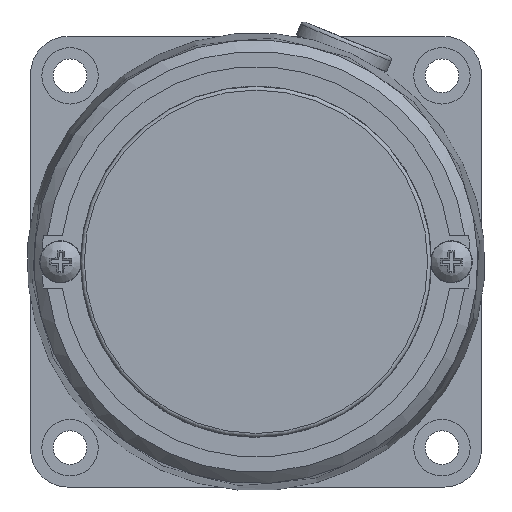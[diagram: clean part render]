
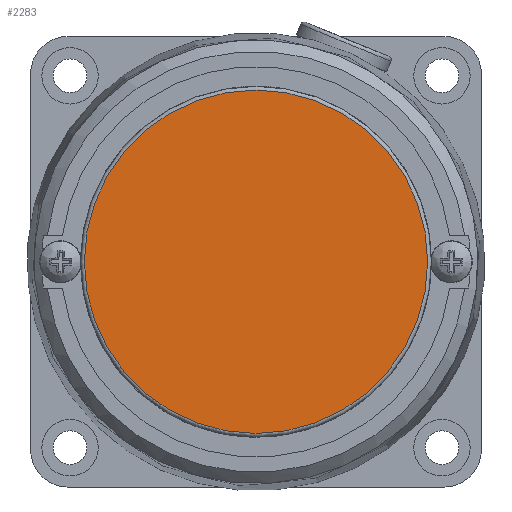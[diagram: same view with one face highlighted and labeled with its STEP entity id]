
A CAD part, left-side view. The second image highlights one B-rep face of the part: STEP entity #2283.
In plain terms, the highlighted planar face has unit normal (-1, 0, 0).
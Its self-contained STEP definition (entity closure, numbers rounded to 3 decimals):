
#2267=CARTESIAN_POINT('',(-48.,0.,19.175));
#2268=DIRECTION('',(-1.0,0.0,0.0));
#2269=DIRECTION('',(0.0,-1.0,0.0));
#2270=AXIS2_PLACEMENT_3D('',#2267,#2268,#2269);
#2271=PLANE('',#2270);
#2272=CARTESIAN_POINT('',(-48.,0.,22.85));
#2273=VERTEX_POINT('',#2272);
#2274=CARTESIAN_POINT('',(-48.,0.,0.));
#2275=DIRECTION('',(1.0,0.0,0.0));
#2276=DIRECTION('',(0.0,0.0,-1.0));
#2277=AXIS2_PLACEMENT_3D('',#2274,#2275,#2276);
#2278=CIRCLE('',#2277,22.85);
#2279=EDGE_CURVE('',#2273,#2273,#2278,.T.);
#2280=ORIENTED_EDGE('',*,*,#2279,.F.);
#2281=EDGE_LOOP('',(#2280));
#2282=FACE_OUTER_BOUND('',#2281,.T.);
#2283=ADVANCED_FACE('',(#2282),#2271,.T.);
